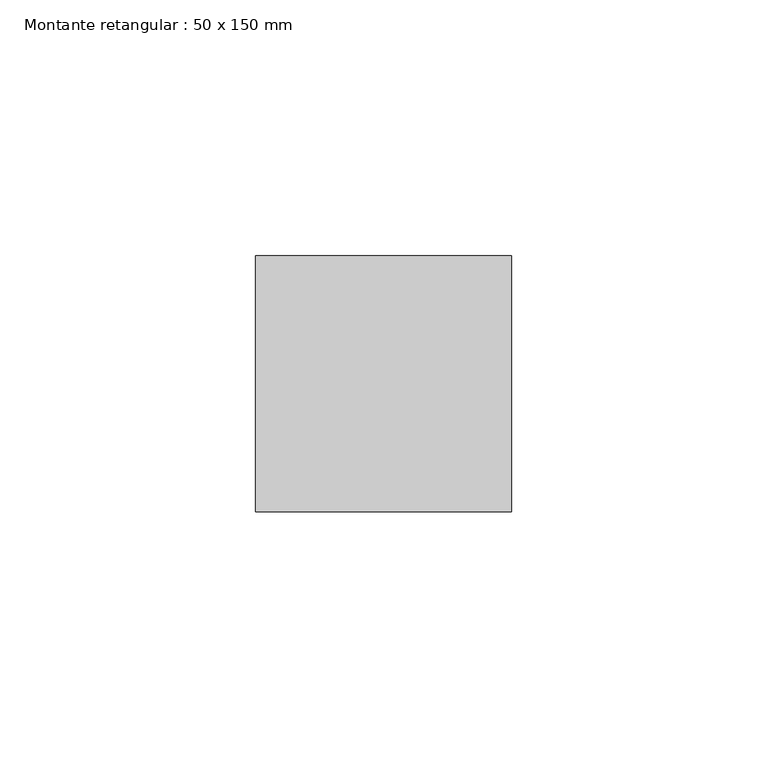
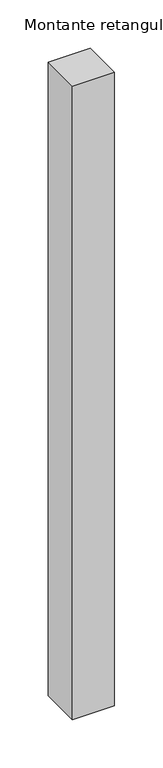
"""IFC4 building model written with IfcOpenShell, lengths in millimetres: member geometry, Montante retangular : 50 x 150 mm."""

from ifc_helpers import new_model, si_unit, frame, origin, place, context, project, spatial, polyline, outline, extrude, source, transform, mapped, element, save


def montante_retangular_50_x_150_mm_ebbe249c(model_context):
    return source(origin(), model_context, "Body", "SweptSolid", [
        extrude(outline(polyline([(25.0, 25.0), (25.0, -25.0), (-25.0, -25.0), (-25.0, 25.0), (25.0, 25.0)])), frame((0.0, 0.0, -800.0), z_axis=(0.0, 0.0, 1.0), x_axis=(1.0, 0.0, 0.0)), (0.0, 0.0, 1.0), 800.0),
    ])


if __name__ == "__main__":
    model = new_model("IFC4")
    model_context = context("Model", 3, world=origin())
    ifc_project = project(units=[si_unit("LENGTHUNIT", "METRE", prefix="MILLI")], contexts=[model_context])
    site = spatial("IfcSite", under=ifc_project)
    building = spatial("IfcBuilding", under=site)
    placement = place(None, origin())
    montante_retangular_50_x_150_mm_shape = montante_retangular_50_x_150_mm_ebbe249c(model_context)
    element("IfcMember", 1, ObjectType="Montante retangular : 50 x 150 mm", at=placement, inside=building, context=model_context, shape_type="MappedRepresentation", body=[
        mapped(montante_retangular_50_x_150_mm_shape, transform((0.0, 0.0, 0.0), x_axis=(1.0, 0.0, 0.0), y_axis=(0.0, 1.0, 0.0), z_axis=(0.0, 0.0, 1.0))),
    ])
    save(model, "model.ifc")
